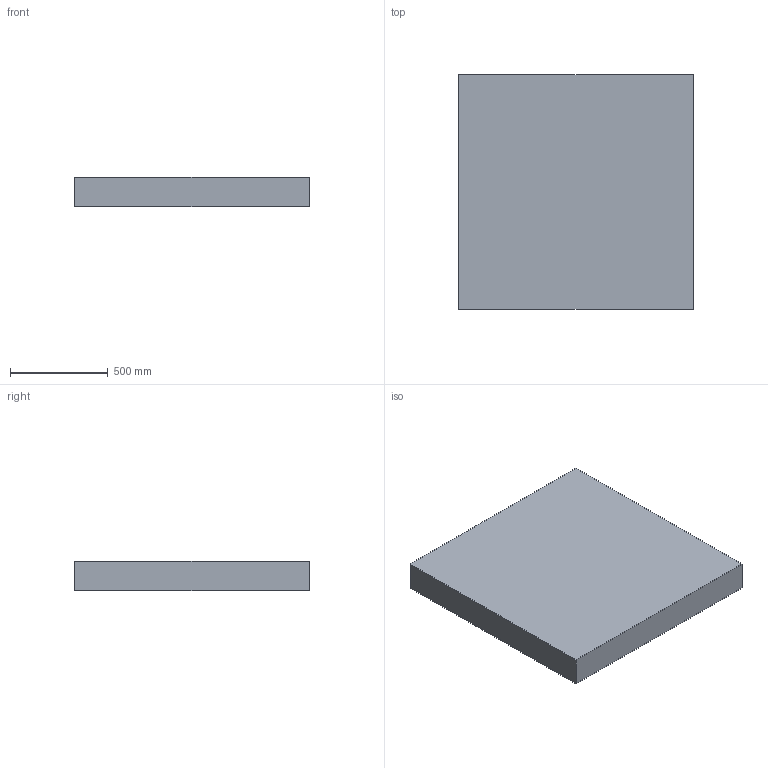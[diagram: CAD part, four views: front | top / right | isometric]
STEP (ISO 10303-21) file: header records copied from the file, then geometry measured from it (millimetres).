
FILE_DESCRIPTION(('Open CASCADE Model'),'2;1');
FILE_NAME('Open CASCADE Shape Model','2026-10-15T15:10:05',('Author'),( 'Open CASCADE'),'Open CASCADE STEP processor 8.0','Open CASCADE 8.0' ,'Unknown');
FILE_SCHEMA(('AUTOMOTIVE_DESIGN { 1 0 10303 214 1 1 1 1 }'));
Length unit declared in the file: millimetre
Products named in the file (1): BALANZA_2t_1200_REF 121
Bounding box: 1200 x 1200 x 150 mm (x, y, z)
Volume: 216000000 mm3; surface area: 3600000 mm2
Topology: 1 solids, 1 shells, 6 faces, 12 edges, 8 vertices
Faces by surface type: plane 6
Entity records: 322 total; most frequent: CARTESIAN_POINT 51, DIRECTION 50, LINE 36, VECTOR 36, ORIENTED_EDGE 24, PCURVE 24, DEFINITIONAL_REPRESENTATION 24, EDGE_CURVE 12
